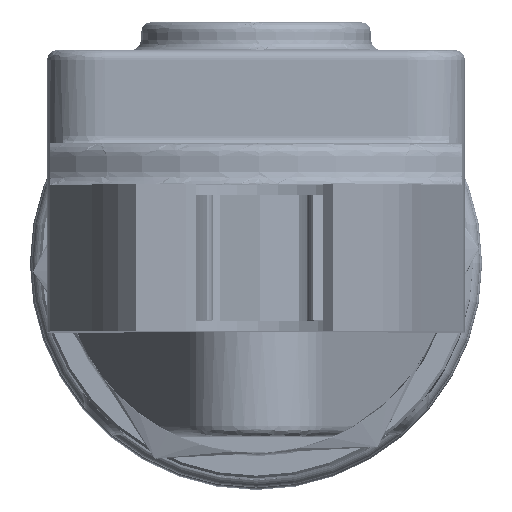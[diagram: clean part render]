
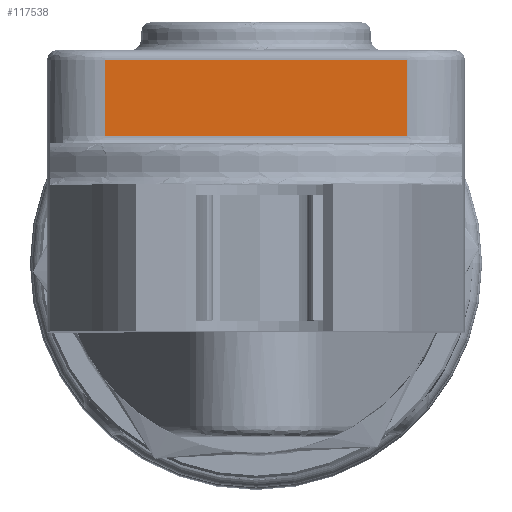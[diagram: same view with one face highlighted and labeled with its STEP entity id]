
A CAD part, top view. The second image highlights one B-rep face of the part: STEP entity #117538.
In plain terms, the highlighted planar face has unit normal (0, 0, 1).
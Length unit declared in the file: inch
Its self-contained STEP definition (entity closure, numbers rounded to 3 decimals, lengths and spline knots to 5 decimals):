
#4876 = CARTESIAN_POINT ( 'NONE',  ( 0., 0.74763, 5.07363 ) ) ;
#13690 = VECTOR ( 'NONE', #115386, 39.37008 ) ;
#31444 = LINE ( 'NONE', #4876, #238398 ) ;
#44818 = EDGE_CURVE ( 'NONE', #73503, #268875, #31444, .T. ) ;
#54497 = AXIS2_PLACEMENT_3D ( 'NONE', #180541, #159157, #348946 ) ;
#54589 = DIRECTION ( 'NONE',  ( 1., 0., 0. ) ) ;
#56198 = VERTEX_POINT ( 'NONE', #129067 ) ;
#71102 = ORIENTED_EDGE ( 'NONE', *, *, #100126, .T. ) ;
#73503 = VERTEX_POINT ( 'NONE', #202053 ) ;
#87558 = VECTOR ( 'NONE', #308479, 39.37008 ) ;
#91071 = VECTOR ( 'NONE', #164916, 39.37008 ) ;
#94557 = VERTEX_POINT ( 'NONE', #187467 ) ;
#100126 = EDGE_CURVE ( 'NONE', #73503, #94557, #170201, .T. ) ;
#102308 = FACE_OUTER_BOUND ( 'NONE', #336421, .T. ) ;
#115386 = DIRECTION ( 'NONE',  ( 0., 1., 0. ) ) ;
#115555 = ORIENTED_EDGE ( 'NONE', *, *, #193758, .F. ) ;
#117538 = ADVANCED_FACE ( 'NONE', ( #102308 ), #132548, .F. ) ;
#129067 = CARTESIAN_POINT ( 'NONE',  ( 0.57087, 0.46337, 5.07363 ) ) ;
#132548 = PLANE ( 'NONE',  #54497 ) ;
#159157 = DIRECTION ( 'NONE',  ( 0., 0., -1. ) ) ;
#164916 = DIRECTION ( 'NONE',  ( 0., -1., 0. ) ) ;
#170201 = LINE ( 'NONE', #225150, #91071 ) ;
#172157 = CARTESIAN_POINT ( 'NONE',  ( 0.57087, 0.23581, 5.07363 ) ) ;
#177118 = LINE ( 'NONE', #328589, #87558 ) ;
#177515 = EDGE_CURVE ( 'NONE', #56198, #268875, #307002, .T. ) ;
#180063 = CARTESIAN_POINT ( 'NONE',  ( 0.57087, 0.74763, 5.07363 ) ) ;
#180541 = CARTESIAN_POINT ( 'NONE',  ( 0.57087, 0.74763, 5.07363 ) ) ;
#187467 = CARTESIAN_POINT ( 'NONE',  ( -0.57087, 0.46337, 5.07363 ) ) ;
#193758 = EDGE_CURVE ( 'NONE', #56198, #94557, #177118, .T. ) ;
#202053 = CARTESIAN_POINT ( 'NONE',  ( -0.57087, 0.74763, 5.07363 ) ) ;
#225009 = ORIENTED_EDGE ( 'NONE', *, *, #177515, .T. ) ;
#225150 = CARTESIAN_POINT ( 'NONE',  ( -0.57087, 0.23581, 5.07363 ) ) ;
#238398 = VECTOR ( 'NONE', #54589, 39.37008 ) ;
#268875 = VERTEX_POINT ( 'NONE', #180063 ) ;
#307002 = LINE ( 'NONE', #172157, #13690 ) ;
#307366 = ORIENTED_EDGE ( 'NONE', *, *, #44818, .F. ) ;
#308479 = DIRECTION ( 'NONE',  ( -1., 0., 0. ) ) ;
#328589 = CARTESIAN_POINT ( 'NONE',  ( 0., 0.46337, 5.07363 ) ) ;
#336421 = EDGE_LOOP ( 'NONE', ( #307366, #71102, #115555, #225009 ) ) ;
#348946 = DIRECTION ( 'NONE',  ( 0., -1., 0. ) ) ;
